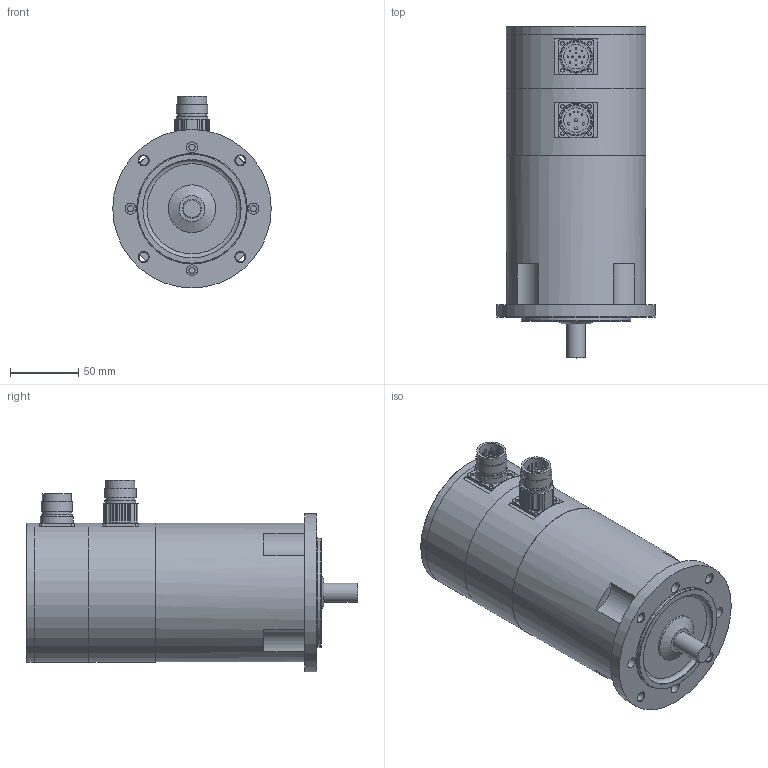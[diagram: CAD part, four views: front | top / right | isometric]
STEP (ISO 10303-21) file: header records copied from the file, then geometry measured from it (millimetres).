
FILE_DESCRIPTION(/* description */ (''),/* implementation_level */ '2;1');
FILE_NAME(/* name */ 'ksy_368e_rx',/* time_stamp */ '2007-03-19T16:19:03+01:00',/* author */ (''),/* organization */ (''),/* preprocessor_version */ 'ST-DEVELOPER v8',/* originating_system */ 'UNIGRAPHICS SOLUTIONS - UNIGRAPHICS 18.0',/* authorisation */ '');
FILE_SCHEMA (('AUTOMOTIVE_DESIGN { 1 2 10303 214 0 1 1 1 }'));
Length unit declared in the file: millimetre
Products named in the file (11): 014261_0; 014260_0; 063342_0; 064315_0; 113061_0; 06330201_0; DIN3760_org_A15x30x7_0; Rotor_SY 36.. E_0; Gehaeuse_SY 36.. E_0; 113050_0; KSY364_E-RD_0
Assembly tree (10 placements, depth 2):
  KSY364_E-RD_0
    113050_0
    Gehaeuse_SY 36.. E_0
    Rotor_SY 36.. E_0
    DIN3760_org_A15x30x7_0
    06330201_0
    113061_0
    064315_0
    063342_0
    014260_0
    014261_0
Bounding box: 116 x 243 x 140.5 mm (x, y, z)
Volume: 1382739.6 mm3; surface area: 203127 mm2
Topology: 10 solids, 10 shells, 285 faces, 699 edges, 450 vertices
Faces by surface type: cylinder 155, plane 82, sphere 20, cone 18, torus 10
Full cylindrical faces by diameter (mm): 1 x16, 2 x4, 2.7 x8, 3.5 x4, 4.5 x4, 6 x4, 7 x4, 8 x4, 13.52 x1, 13.92 x1, 14 x1, 15 x2, 15.3 x1, 18 x2, 20 x4, 21 x2, 21.5 x2, 23 x4, 24 x1, 27 x1, 29 x1, 30 x3, 35 x2, 72 x1, 75 x1, 79.3 x1, 80 x2, 81 x2, 85 x1, 102 x4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
Entity records: 7483 total; most frequent: DIRECTION 1416, CARTESIAN_POINT 1143, ORIENTED_EDGE 934, AXIS2_PLACEMENT_3D 653, EDGE_LOOP 506, EDGE_CURVE 467, VERTEX_POINT 380, CIRCLE 357
